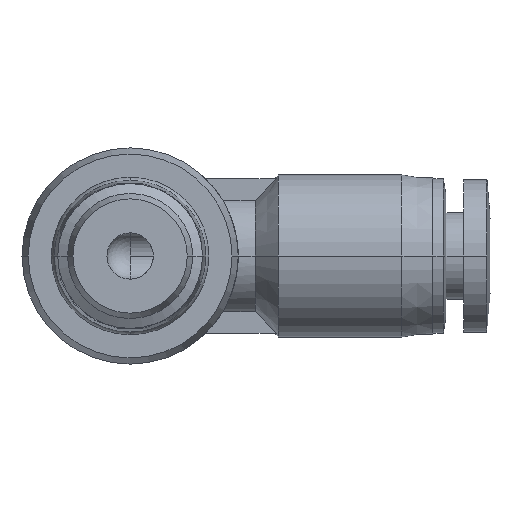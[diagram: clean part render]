
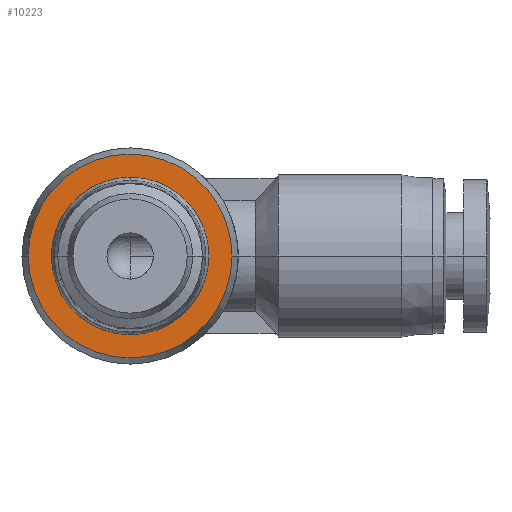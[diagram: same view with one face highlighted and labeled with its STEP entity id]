
A CAD part, front view. The second image highlights one B-rep face of the part: STEP entity #10223.
In plain terms, the highlighted planar face has unit normal (0, -1, 0).
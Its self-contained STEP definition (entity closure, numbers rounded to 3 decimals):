
#68 = EDGE_CURVE ( 'NONE', #9003, #4128, #3080, .T. ) ;
#138 = AXIS2_PLACEMENT_3D ( 'NONE', #11032, #648, #5970 ) ;
#648 = DIRECTION ( 'NONE',  ( 0., 1., 0. ) ) ;
#699 = DIRECTION ( 'NONE',  ( 0., -1., 0. ) ) ;
#756 = FACE_OUTER_BOUND ( 'NONE', #13132, .T. ) ;
#891 = CARTESIAN_POINT ( 'NONE',  ( -5.724, 8.9, 0. ) ) ;
#1322 = DIRECTION ( 'NONE',  ( 0., 1., 0. ) ) ;
#1853 = ORIENTED_EDGE ( 'NONE', *, *, #7354, .T. ) ;
#1900 = CARTESIAN_POINT ( 'NONE',  ( -6.598, 8.9, 0. ) ) ;
#2024 = DIRECTION ( 'NONE',  ( 0., 1., 0. ) ) ;
#2186 = CARTESIAN_POINT ( 'NONE',  ( 0., 8.9, 0. ) ) ;
#2448 = EDGE_LOOP ( 'NONE', ( #1853, #4528 ) ) ;
#3080 = CIRCLE ( 'NONE', #4826, 6.598 ) ;
#3638 = EDGE_CURVE ( 'NONE', #12936, #9315, #6601, .T. ) ;
#3950 = DIRECTION ( 'NONE',  ( 0., 1., 0. ) ) ;
#4077 = ORIENTED_EDGE ( 'NONE', *, *, #68, .F. ) ;
#4128 = VERTEX_POINT ( 'NONE', #1900 ) ;
#4415 = AXIS2_PLACEMENT_3D ( 'NONE', #8485, #1322, #10609 ) ;
#4528 = ORIENTED_EDGE ( 'NONE', *, *, #3638, .T. ) ;
#4826 = AXIS2_PLACEMENT_3D ( 'NONE', #10218, #2024, #10423 ) ;
#4933 = FACE_BOUND ( 'NONE', #2448, .T. ) ;
#5970 = DIRECTION ( 'NONE',  ( -1., 0., 0. ) ) ;
#6083 = PLANE ( 'NONE',  #11756 ) ;
#6591 = EDGE_CURVE ( 'NONE', #4128, #9003, #10134, .T. ) ;
#6601 = CIRCLE ( 'NONE', #4415, 4.85 ) ;
#7354 = EDGE_CURVE ( 'NONE', #9315, #12936, #12772, .T. ) ;
#8116 = DIRECTION ( 'NONE',  ( -1., 0., 0. ) ) ;
#8485 = CARTESIAN_POINT ( 'NONE',  ( 0., 8.9, 0. ) ) ;
#9003 = VERTEX_POINT ( 'NONE', #11149 ) ;
#9272 = AXIS2_PLACEMENT_3D ( 'NONE', #2186, #3950, #8116 ) ;
#9315 = VERTEX_POINT ( 'NONE', #9840 ) ;
#9840 = CARTESIAN_POINT ( 'NONE',  ( -4.85, 8.9, 0. ) ) ;
#9973 = ORIENTED_EDGE ( 'NONE', *, *, #6591, .F. ) ;
#10134 = CIRCLE ( 'NONE', #9272, 6.598 ) ;
#10218 = CARTESIAN_POINT ( 'NONE',  ( 0., 8.9, 0. ) ) ;
#10223 = ADVANCED_FACE ( 'NONE', ( #756, #4933 ), #6083, .T. ) ;
#10423 = DIRECTION ( 'NONE',  ( -1., 0., 0. ) ) ;
#10609 = DIRECTION ( 'NONE',  ( -1., 0., 0. ) ) ;
#11032 = CARTESIAN_POINT ( 'NONE',  ( 0., 8.9, 0. ) ) ;
#11044 = CARTESIAN_POINT ( 'NONE',  ( 4.85, 8.9, 0. ) ) ;
#11149 = CARTESIAN_POINT ( 'NONE',  ( 6.598, 8.9, 0. ) ) ;
#11756 = AXIS2_PLACEMENT_3D ( 'NONE', #891, #699, #13374 ) ;
#12772 = CIRCLE ( 'NONE', #138, 4.85 ) ;
#12936 = VERTEX_POINT ( 'NONE', #11044 ) ;
#13132 = EDGE_LOOP ( 'NONE', ( #9973, #4077 ) ) ;
#13374 = DIRECTION ( 'NONE',  ( 0., 0., -1. ) ) ;
